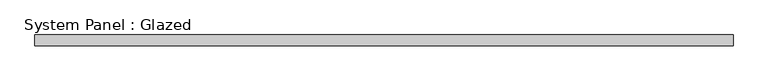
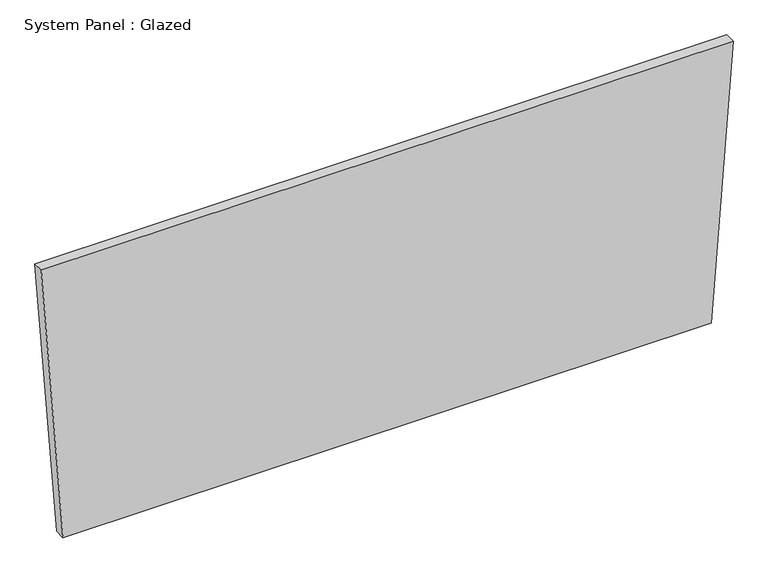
"""IFC4 building model written with IfcOpenShell, lengths in millimetres: plate geometry, System Panel : Glazed."""

from ifc_helpers import new_model, si_unit, frame, origin, place, context, project, spatial, polyline, outline, extrude, source, transform, mapped, element, save


def system_panel_glazed_51df4797(model_context):
    return source(origin(), model_context, "Body", "SweptSolid", [
        extrude(outline(polyline([(0.0011098, -761.3857878), (0.0, 761.3857933), (682.3771629, 812.213482), (682.3783468, -812.213482), (0.0011098, -761.3857878)])), frame((0.0, 19.05, 0.0), z_axis=(0.0, 1.0, 0.0), x_axis=(0.0, 0.0, 1.0)), (0.0, 0.0, 1.0), 25.4),
    ])


if __name__ == "__main__":
    model = new_model("IFC4")
    model_context = context("Model", 3, world=origin())
    ifc_project = project(units=[si_unit("LENGTHUNIT", "METRE", prefix="MILLI")], contexts=[model_context])
    site = spatial("IfcSite", under=ifc_project)
    building = spatial("IfcBuilding", under=site)
    placement = place(None, origin())
    system_panel_glazed_shape = system_panel_glazed_51df4797(model_context)
    element("IfcPlate", 1, ObjectType="System Panel : Glazed", at=placement, inside=building, context=model_context, shape_type="MappedRepresentation", body=[
        mapped(system_panel_glazed_shape, transform((0.0, 0.0, 0.0), x_axis=(1.0, 0.0, 0.0), y_axis=(0.0, 1.0, 0.0), z_axis=(0.0, 0.0, 1.0))),
    ])
    save(model, "model.ifc")
